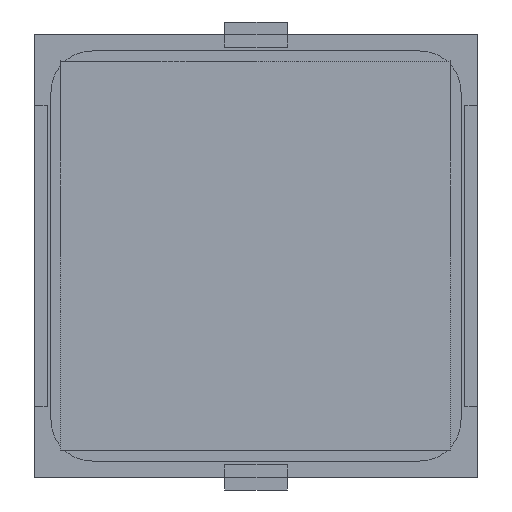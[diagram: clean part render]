
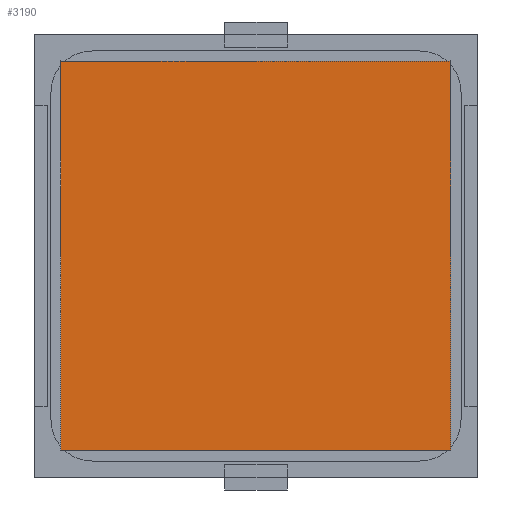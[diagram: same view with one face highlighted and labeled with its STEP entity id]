
A CAD part, front view. The second image highlights one B-rep face of the part: STEP entity #3190.
In plain terms, the highlighted planar face has unit normal (0, -1, 0).
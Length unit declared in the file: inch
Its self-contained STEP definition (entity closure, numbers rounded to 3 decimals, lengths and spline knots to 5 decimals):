
#199 = DIRECTION ( 'NONE',  ( 0., 0., 1. ) ) ;
#295 = VERTEX_POINT ( 'NONE', #6068 ) ;
#431 = LINE ( 'NONE', #3130, #4347 ) ;
#1497 = DIRECTION ( 'NONE',  ( -1., 0., 0. ) ) ;
#1786 = ORIENTED_EDGE ( 'NONE', *, *, #8143, .F. ) ;
#2087 = CARTESIAN_POINT ( 'NONE',  ( -0.61024, -0.005, 0.61024 ) ) ;
#2117 = CARTESIAN_POINT ( 'NONE',  ( 0.61024, -0.005, -0.61024 ) ) ;
#3130 = CARTESIAN_POINT ( 'NONE',  ( -0.61024, -0.005, -0.61024 ) ) ;
#3189 = VERTEX_POINT ( 'NONE', #8393 ) ;
#3190 = ADVANCED_FACE ( 'NONE', ( #8444 ), #3671, .F. ) ;
#3263 = VERTEX_POINT ( 'NONE', #3943 ) ;
#3540 = CARTESIAN_POINT ( 'NONE',  ( -0.61024, -0.005, 0.61024 ) ) ;
#3599 = DIRECTION ( 'NONE',  ( 0., 0., -1. ) ) ;
#3671 = PLANE ( 'NONE',  #6754 ) ;
#3943 = CARTESIAN_POINT ( 'NONE',  ( 0.61024, -0.005, 0.61024 ) ) ;
#3972 = LINE ( 'NONE', #2087, #7160 ) ;
#4030 = VECTOR ( 'NONE', #3599, 39.37008 ) ;
#4347 = VECTOR ( 'NONE', #5822, 39.37008 ) ;
#5161 = EDGE_CURVE ( 'NONE', #5230, #295, #5495, .T. ) ;
#5230 = VERTEX_POINT ( 'NONE', #6249 ) ;
#5495 = LINE ( 'NONE', #6167, #6714 ) ;
#5512 = ORIENTED_EDGE ( 'NONE', *, *, #5161, .F. ) ;
#5684 = LINE ( 'NONE', #2117, #4030 ) ;
#5822 = DIRECTION ( 'NONE',  ( 0., 0., 1. ) ) ;
#6062 = DIRECTION ( 'NONE',  ( 1., 0., 0. ) ) ;
#6068 = CARTESIAN_POINT ( 'NONE',  ( -0.61024, -0.005, -0.61024 ) ) ;
#6167 = CARTESIAN_POINT ( 'NONE',  ( -0.61024, -0.005, -0.61024 ) ) ;
#6243 = DIRECTION ( 'NONE',  ( 0., 1., 0. ) ) ;
#6249 = CARTESIAN_POINT ( 'NONE',  ( 0.61024, -0.005, -0.61024 ) ) ;
#6519 = EDGE_LOOP ( 'NONE', ( #7452, #5512, #7106, #1786 ) ) ;
#6714 = VECTOR ( 'NONE', #1497, 39.37008 ) ;
#6754 = AXIS2_PLACEMENT_3D ( 'NONE', #3540, #6243, #199 ) ;
#7056 = EDGE_CURVE ( 'NONE', #295, #3189, #431, .T. ) ;
#7106 = ORIENTED_EDGE ( 'NONE', *, *, #8548, .F. ) ;
#7160 = VECTOR ( 'NONE', #6062, 39.37008 ) ;
#7452 = ORIENTED_EDGE ( 'NONE', *, *, #7056, .F. ) ;
#8143 = EDGE_CURVE ( 'NONE', #3189, #3263, #3972, .T. ) ;
#8393 = CARTESIAN_POINT ( 'NONE',  ( -0.61024, -0.005, 0.61024 ) ) ;
#8444 = FACE_OUTER_BOUND ( 'NONE', #6519, .T. ) ;
#8548 = EDGE_CURVE ( 'NONE', #3263, #5230, #5684, .T. ) ;
